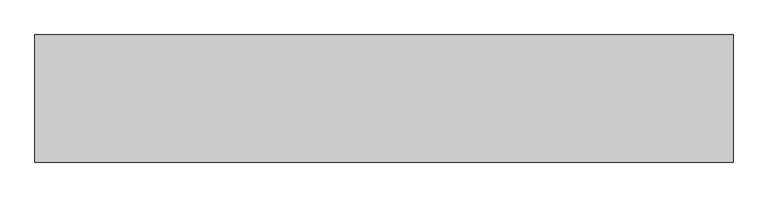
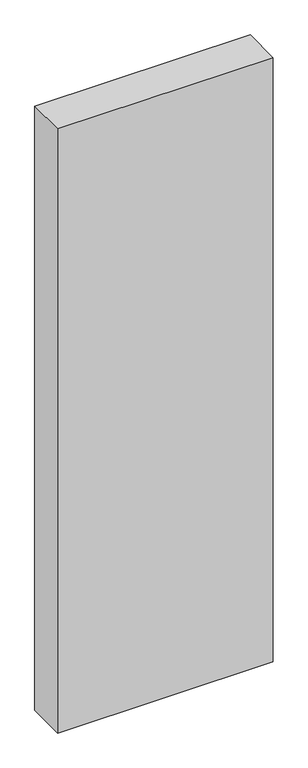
"""IFC4 building model written with IfcOpenShell, lengths in millimetres: geographic element geometry, Begrünung frei kletternd : Begrünung frei kletternd."""

from ifc_helpers import new_model, si_unit, origin, origin_with_axes, place, context, project, spatial, polyline, outline, extrude, source, transform, mapped, element, save


def geographic_element_9d9cddf6(model_context):
    return source(origin(), model_context, "Body", "SweptSolid", [
        extrude(outline(polyline([(820.6394348, -0.4411732), (820.6394348, -300.4411732), (-821.1992595, -300.4411732), (-821.1992595, -0.4411732), (820.6394348, -0.4411732)])), origin_with_axes(), (0.0, 0.0, 1.0), 4861.7807301),
    ])


if __name__ == "__main__":
    model = new_model("IFC4")
    model_context = context("Model", 3, world=origin())
    ifc_project = project(units=[si_unit("LENGTHUNIT", "METRE", prefix="MILLI")], contexts=[model_context])
    site = spatial("IfcSite", under=ifc_project)
    building = spatial("IfcBuilding", under=site)
    placement = place(None, origin())
    geographic_element_shape = geographic_element_9d9cddf6(model_context)
    element("IfcGeographicElement", 1, ObjectType="Begrünung frei kletternd : Begrünung frei kletternd", at=placement, inside=building, context=model_context, shape_type="MappedRepresentation", body=[
        mapped(geographic_element_shape, transform((0.0, 0.0, 0.0), x_axis=(1.0, 0.0, 0.0), y_axis=(0.0, 1.0, 0.0), z_axis=(0.0, 0.0, 1.0))),
    ])
    save(model, "model.ifc")
